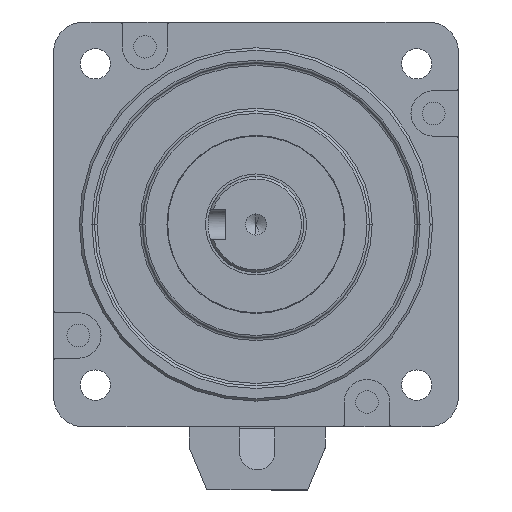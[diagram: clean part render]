
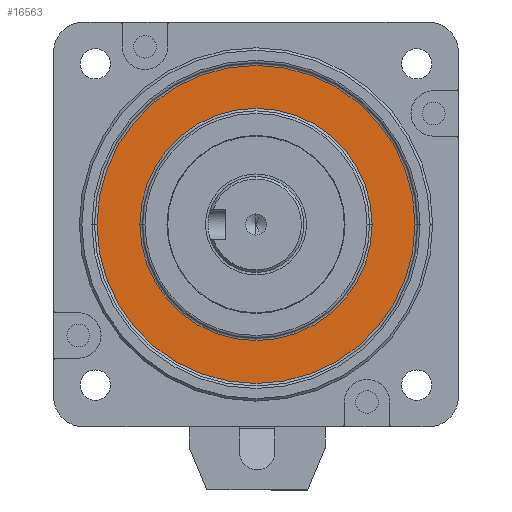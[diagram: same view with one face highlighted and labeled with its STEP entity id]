
A CAD part, left-side view. The second image highlights one B-rep face of the part: STEP entity #16563.
In plain terms, the highlighted planar face has unit normal (-1, 0, 0) as drawn and (0, 0, 1) by its records, which use the part's own axes.
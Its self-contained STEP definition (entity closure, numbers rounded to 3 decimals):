
#986 = CIRCLE ( 'NONE', #23533, 23. ) ;
#1080 = DIRECTION ( 'NONE',  ( -1., 0., 0. ) ) ;
#1329 = DIRECTION ( 'NONE',  ( -1., 0., 0. ) ) ;
#2095 = AXIS2_PLACEMENT_3D ( 'NONE', #17823, #7338, #1329 ) ;
#2636 = EDGE_LOOP ( 'NONE', ( #7516, #9318 ) ) ;
#3071 = CARTESIAN_POINT ( 'NONE',  ( 0., 0., 17. ) ) ;
#4085 = CARTESIAN_POINT ( 'NONE',  ( 0., 0., 17. ) ) ;
#4418 = VERTEX_POINT ( 'NONE', #14658 ) ;
#4756 = CIRCLE ( 'NONE', #2095, 31.5 ) ;
#5004 = VERTEX_POINT ( 'NONE', #18825 ) ;
#5150 = DIRECTION ( 'NONE',  ( 0., 0., -1. ) ) ;
#6045 = EDGE_CURVE ( 'NONE', #9508, #4418, #4756, .T. ) ;
#7338 = DIRECTION ( 'NONE',  ( 0., 0., -1. ) ) ;
#7516 = ORIENTED_EDGE ( 'NONE', *, *, #16984, .T. ) ;
#7729 = ORIENTED_EDGE ( 'NONE', *, *, #6045, .F. ) ;
#7859 = EDGE_CURVE ( 'NONE', #13646, #5004, #14297, .T. ) ;
#7940 = CARTESIAN_POINT ( 'NONE',  ( 0., 31.5, 17. ) ) ;
#8106 = PLANE ( 'NONE',  #14090 ) ;
#8309 = DIRECTION ( 'NONE',  ( 0., 0., -1. ) ) ;
#9318 = ORIENTED_EDGE ( 'NONE', *, *, #7859, .T. ) ;
#9508 = VERTEX_POINT ( 'NONE', #24024 ) ;
#10332 = ORIENTED_EDGE ( 'NONE', *, *, #19014, .F. ) ;
#12061 = DIRECTION ( 'NONE',  ( 0., 0., -1. ) ) ;
#12435 = CARTESIAN_POINT ( 'NONE',  ( 23., 0., 17. ) ) ;
#13018 = EDGE_LOOP ( 'NONE', ( #7729, #10332 ) ) ;
#13646 = VERTEX_POINT ( 'NONE', #12435 ) ;
#14090 = AXIS2_PLACEMENT_3D ( 'NONE', #7940, #20566, #14307 ) ;
#14297 = CIRCLE ( 'NONE', #20582, 23. ) ;
#14307 = DIRECTION ( 'NONE',  ( -1., 0., 0. ) ) ;
#14658 = CARTESIAN_POINT ( 'NONE',  ( 31.5, 0., 17. ) ) ;
#16172 = DIRECTION ( 'NONE',  ( -1., 0., 0. ) ) ;
#16563 = ADVANCED_FACE ( 'NONE', ( #22831, #21545 ), #8106, .F. ) ;
#16984 = EDGE_CURVE ( 'NONE', #5004, #13646, #986, .T. ) ;
#17823 = CARTESIAN_POINT ( 'NONE',  ( 0., 0., 17. ) ) ;
#18825 = CARTESIAN_POINT ( 'NONE',  ( -23., 0., 17. ) ) ;
#19014 = EDGE_CURVE ( 'NONE', #4418, #9508, #20161, .T. ) ;
#20161 = CIRCLE ( 'NONE', #24600, 31.5 ) ;
#20566 = DIRECTION ( 'NONE',  ( 0., 0., -1. ) ) ;
#20582 = AXIS2_PLACEMENT_3D ( 'NONE', #26414, #8309, #22388 ) ;
#21545 = FACE_BOUND ( 'NONE', #2636, .T. ) ;
#22388 = DIRECTION ( 'NONE',  ( -1., 0., 0. ) ) ;
#22831 = FACE_OUTER_BOUND ( 'NONE', #13018, .T. ) ;
#23533 = AXIS2_PLACEMENT_3D ( 'NONE', #3071, #5150, #1080 ) ;
#24024 = CARTESIAN_POINT ( 'NONE',  ( -31.5, 0., 17. ) ) ;
#24600 = AXIS2_PLACEMENT_3D ( 'NONE', #4085, #12061, #16172 ) ;
#26414 = CARTESIAN_POINT ( 'NONE',  ( 0., 0., 17. ) ) ;
